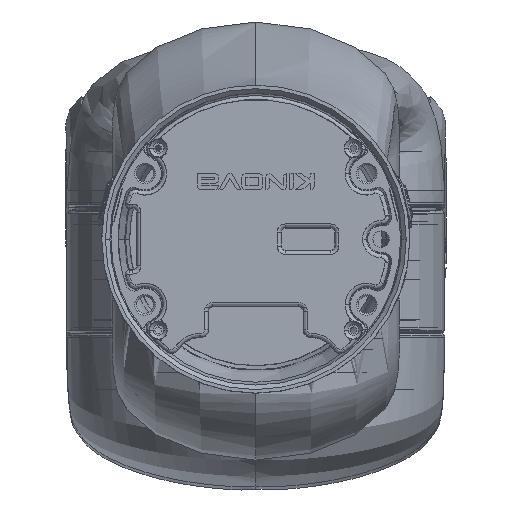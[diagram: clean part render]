
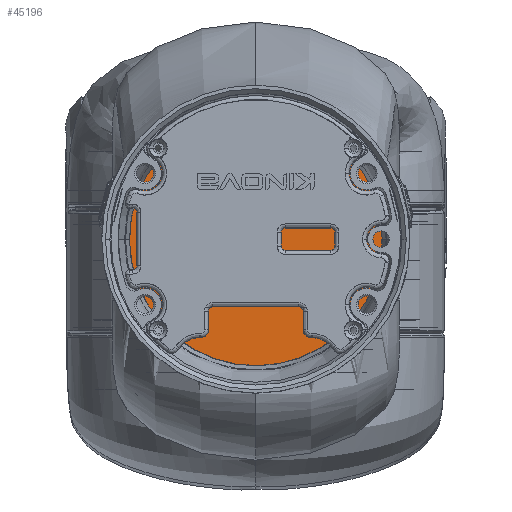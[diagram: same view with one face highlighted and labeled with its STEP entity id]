
A CAD part, top view. The second image highlights one B-rep face of the part: STEP entity #45196.
In plain terms, the highlighted planar face has unit normal (0, 0, 1) as drawn and (0, -1, 0) by its records, which use the part's own axes.
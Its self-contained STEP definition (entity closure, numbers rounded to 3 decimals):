
#754 = CARTESIAN_POINT ( 'NONE',  ( 0., 0., -30.75 ) ) ;
#11770 = CARTESIAN_POINT ( 'NONE',  ( 0., 0., 0. ) ) ;
#35069 = AXIS2_PLACEMENT_3D ( 'NONE', #11770, #177469, #143614 ) ;
#40119 = AXIS2_PLACEMENT_3D ( 'NONE', #193658, #96413, #146805 ) ;
#45196 = ADVANCED_FACE ( 'NONE', ( #136019 ), #61923, .F. ) ;
#61923 = PLANE ( 'NONE',  #40119 ) ;
#74600 = VERTEX_POINT ( 'NONE', #754 ) ;
#91082 = DIRECTION ( 'NONE',  ( 0., 0., 1. ) ) ;
#93184 = VERTEX_POINT ( 'NONE', #97454 ) ;
#96413 = DIRECTION ( 'NONE',  ( 0., 1., 0. ) ) ;
#97454 = CARTESIAN_POINT ( 'NONE',  ( 0., 0., 30.75 ) ) ;
#99221 = ORIENTED_EDGE ( 'NONE', *, *, #157334, .F. ) ;
#112262 = EDGE_LOOP ( 'NONE', ( #99221, #116132 ) ) ;
#116132 = ORIENTED_EDGE ( 'NONE', *, *, #124120, .F. ) ;
#124120 = EDGE_CURVE ( 'NONE', #93184, #74600, #144571, .T. ) ;
#126301 = CARTESIAN_POINT ( 'NONE',  ( 0., 0., 0. ) ) ;
#136019 = FACE_OUTER_BOUND ( 'NONE', #112262, .T. ) ;
#143614 = DIRECTION ( 'NONE',  ( 0., 0., 1. ) ) ;
#144571 = CIRCLE ( 'NONE', #155608, 30.75 ) ;
#146805 = DIRECTION ( 'NONE',  ( 0., 0., 1. ) ) ;
#155608 = AXIS2_PLACEMENT_3D ( 'NONE', #126301, #175336, #91082 ) ;
#157334 = EDGE_CURVE ( 'NONE', #74600, #93184, #163283, .T. ) ;
#163283 = CIRCLE ( 'NONE', #35069, 30.75 ) ;
#175336 = DIRECTION ( 'NONE',  ( 0., 1., 0. ) ) ;
#177469 = DIRECTION ( 'NONE',  ( 0., 1., 0. ) ) ;
#193658 = CARTESIAN_POINT ( 'NONE',  ( 0., 0., 0. ) ) ;
